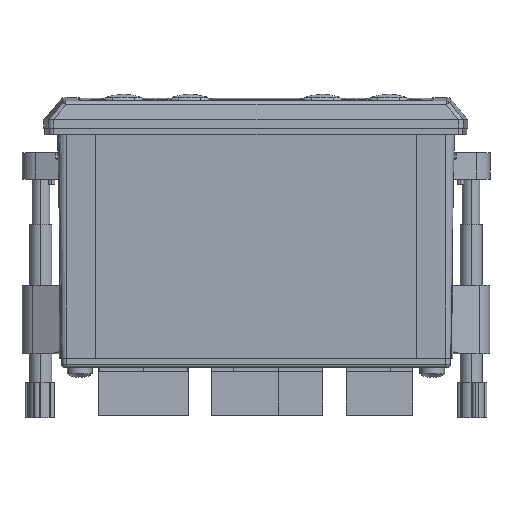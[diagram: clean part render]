
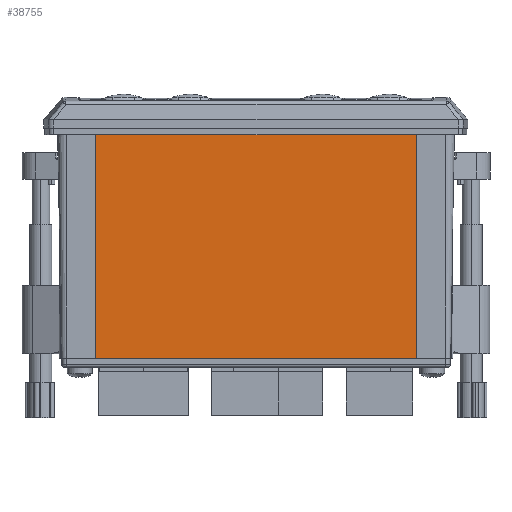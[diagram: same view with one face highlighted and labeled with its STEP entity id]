
A CAD part, front view. The second image highlights one B-rep face of the part: STEP entity #38755.
In plain terms, the highlighted planar face has unit normal (0, -1, -0.018).
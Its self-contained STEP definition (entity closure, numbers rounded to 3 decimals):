
#274 = DIRECTION ( 'NONE',  ( 1., 0., 0. ) ) ;
#758 = VECTOR ( 'NONE', #28623, 1000. ) ;
#2345 = VERTEX_POINT ( 'NONE', #42326 ) ;
#3398 = CARTESIAN_POINT ( 'NONE',  ( 36.2, -20.985, -0.831 ) ) ;
#3503 = CARTESIAN_POINT ( 'NONE',  ( 36.2, -20.991, -0.5 ) ) ;
#3991 = EDGE_CURVE ( 'NONE', #36468, #54879, #41343, .T. ) ;
#4983 = EDGE_LOOP ( 'NONE', ( #59958, #42638, #14087, #50567, #59192, #43427 ) ) ;
#10323 = CARTESIAN_POINT ( 'NONE',  ( -35.4, -20.991, -0.5 ) ) ;
#12080 = VERTEX_POINT ( 'NONE', #54140 ) ;
#14081 = VECTOR ( 'NONE', #24805, 1000. ) ;
#14087 = ORIENTED_EDGE ( 'NONE', *, *, #3991, .T. ) ;
#14284 =( BOUNDED_CURVE ( )  B_SPLINE_CURVE ( 3, ( #21957, #31626, #16913, #26979 ),
 .UNSPECIFIED., .F., .F. ) 
 B_SPLINE_CURVE_WITH_KNOTS ( ( 4, 4 ),
 ( 0., 1.571 ),
 .UNSPECIFIED. ) 
 CURVE ( )  GEOMETRIC_REPRESENTATION_ITEM ( )  RATIONAL_B_SPLINE_CURVE ( ( 1., 0.805, 0.805, 1. ) ) 
 REPRESENTATION_ITEM ( '' )  );
#16334 = EDGE_CURVE ( 'NONE', #12080, #2345, #54118, .T. ) ;
#16870 =( BOUNDED_CURVE ( )  B_SPLINE_CURVE ( 3, ( #58526, #3398, #18682, #53760 ),
 .UNSPECIFIED., .F., .T. ) 
 B_SPLINE_CURVE_WITH_KNOTS ( ( 4, 4 ),
 ( 1.571, 3.142 ),
 .UNSPECIFIED. ) 
 CURVE ( )  GEOMETRIC_REPRESENTATION_ITEM ( )  RATIONAL_B_SPLINE_CURVE ( ( 1., 0.805, 0.805, 1. ) ) 
 REPRESENTATION_ITEM ( '' )  );
#16913 = CARTESIAN_POINT ( 'NONE',  ( -36.2, -20.985, -0.831 ) ) ;
#17553 = DIRECTION ( 'NONE',  ( 0., -1., -0.017 ) ) ;
#18682 = CARTESIAN_POINT ( 'NONE',  ( 35.869, -20.991, -0.5 ) ) ;
#21957 = CARTESIAN_POINT ( 'NONE',  ( -35.4, -20.991, -0.5 ) ) ;
#23800 = VERTEX_POINT ( 'NONE', #46270 ) ;
#24688 = EDGE_CURVE ( 'NONE', #34836, #36468, #14284, .T. ) ;
#24805 = DIRECTION ( 'NONE',  ( 0., 0.017, -1. ) ) ;
#26979 = CARTESIAN_POINT ( 'NONE',  ( -36.2, -20.977, -1.3 ) ) ;
#27386 = PLANE ( 'NONE',  #62352 ) ;
#28623 = DIRECTION ( 'NONE',  ( 1., 0., 0. ) ) ;
#30071 = CARTESIAN_POINT ( 'NONE',  ( -36.2, -20.092, -52. ) ) ;
#31626 = CARTESIAN_POINT ( 'NONE',  ( -35.869, -20.991, -0.5 ) ) ;
#34836 = VERTEX_POINT ( 'NONE', #10323 ) ;
#36285 = VECTOR ( 'NONE', #274, 1000. ) ;
#36468 = VERTEX_POINT ( 'NONE', #55253 ) ;
#38755 = ADVANCED_FACE ( 'NONE', ( #52017 ), #27386, .T. ) ;
#39131 = EDGE_CURVE ( 'NONE', #54879, #2345, #62925, .T. ) ;
#40396 = DIRECTION ( 'NONE',  ( 0., 0.017, -1. ) ) ;
#41343 = LINE ( 'NONE', #41402, #56304 ) ;
#41402 = CARTESIAN_POINT ( 'NONE',  ( -36.2, -20.991, -0.491 ) ) ;
#42326 = CARTESIAN_POINT ( 'NONE',  ( 36.2, -20.092, -52. ) ) ;
#42638 = ORIENTED_EDGE ( 'NONE', *, *, #24688, .T. ) ;
#43427 = ORIENTED_EDGE ( 'NONE', *, *, #60757, .T. ) ;
#44033 = LINE ( 'NONE', #3503, #758 ) ;
#45551 = CARTESIAN_POINT ( 'NONE',  ( 36.2, -20.092, -52. ) ) ;
#46112 = EDGE_CURVE ( 'NONE', #34836, #23800, #44033, .T. ) ;
#46270 = CARTESIAN_POINT ( 'NONE',  ( 35.4, -20.991, -0.5 ) ) ;
#47544 = CARTESIAN_POINT ( 'NONE',  ( 36.2, -20.092, -52. ) ) ;
#50567 = ORIENTED_EDGE ( 'NONE', *, *, #39131, .T. ) ;
#52017 = FACE_OUTER_BOUND ( 'NONE', #4983, .T. ) ;
#52619 = DIRECTION ( 'NONE',  ( 0., 0.017, -1. ) ) ;
#53760 = CARTESIAN_POINT ( 'NONE',  ( 35.4, -20.991, -0.5 ) ) ;
#54118 = LINE ( 'NONE', #59845, #14081 ) ;
#54140 = CARTESIAN_POINT ( 'NONE',  ( 36.2, -20.977, -1.3 ) ) ;
#54879 = VERTEX_POINT ( 'NONE', #30071 ) ;
#55253 = CARTESIAN_POINT ( 'NONE',  ( -36.2, -20.977, -1.3 ) ) ;
#56304 = VECTOR ( 'NONE', #40396, 1000. ) ;
#58526 = CARTESIAN_POINT ( 'NONE',  ( 36.2, -20.977, -1.3 ) ) ;
#59192 = ORIENTED_EDGE ( 'NONE', *, *, #16334, .F. ) ;
#59845 = CARTESIAN_POINT ( 'NONE',  ( 36.2, -20.092, -52. ) ) ;
#59958 = ORIENTED_EDGE ( 'NONE', *, *, #46112, .F. ) ;
#60757 = EDGE_CURVE ( 'NONE', #12080, #23800, #16870, .T. ) ;
#62352 = AXIS2_PLACEMENT_3D ( 'NONE', #47544, #17553, #52619 ) ;
#62925 = LINE ( 'NONE', #45551, #36285 ) ;
